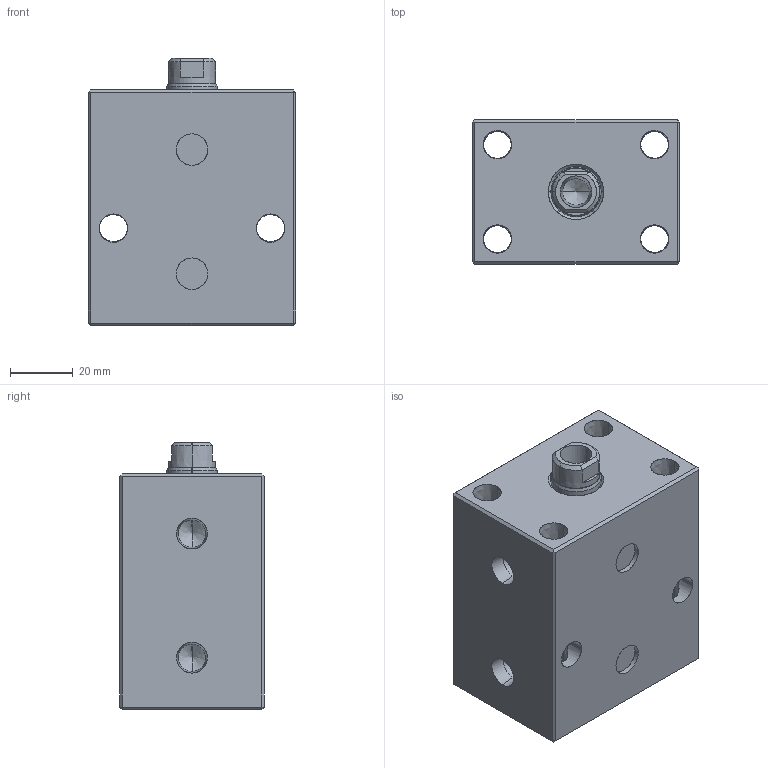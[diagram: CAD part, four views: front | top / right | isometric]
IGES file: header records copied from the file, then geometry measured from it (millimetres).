
Start section: SolidWorks IGES file using analytic representation for surfaces
Global section: file name: E:\ALL-SSVT-BLOCK\IGSMODEL-25-BORE\BC04-25-25-F.IGS; native system: SolidWorks 2019; preprocessor: SolidWorks 2019; author: SSVT; date: 210824.091453; units: millimetre
Bounding box: 66 x 46 x 85 mm (x, y, z)
Surface area: 40965.3 mm2 (no closed solid volume)
Topology: 0 solids, 0 shells, 98 faces, 1737 edges, 1731 vertices
Faces by surface type: revolution 63, bspline 35
